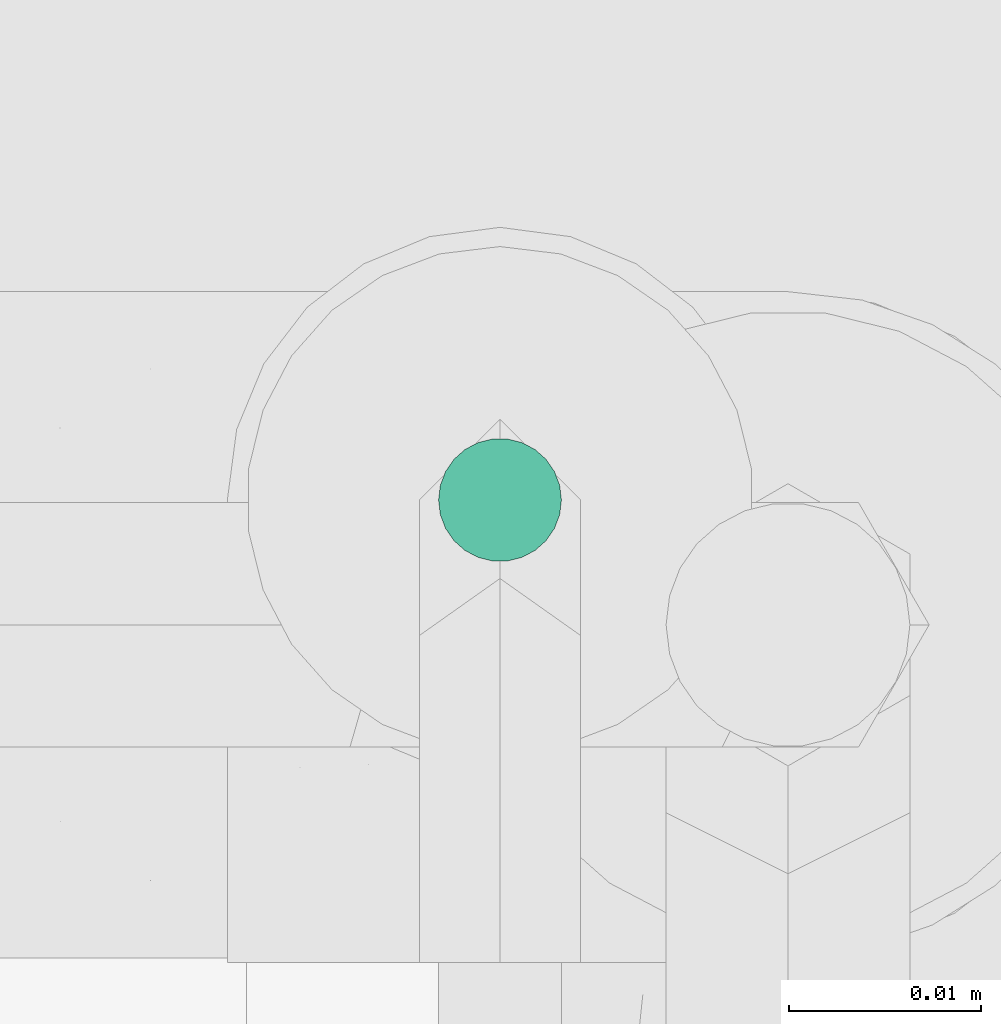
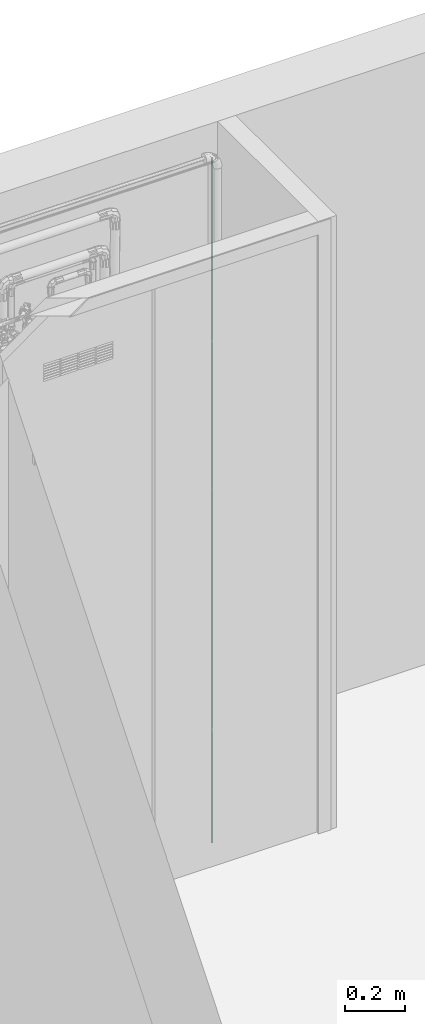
# One storey, part 17 of 32: 1 flow segment.
"""IFC2X3 building model written with IfcOpenShell, lengths in metres."""

from ifc_helpers import new_model, entity, si_unit, converted_unit, derived_unit, direction, frame, origin, origin_2d_with_axis, place, context, subcontext, project, spatial, circle, extrude, type_object, element, save


model = new_model("IFC2X3")

# Units and contexts
model_context = context("Model", 3, precision=1e-05, world=origin(), true_north=direction((6.123031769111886e-17, 1.0)))
body_context = subcontext(model_context, "Body", "Model", "MODEL_VIEW")
ifc_project = project(units=[si_unit("LENGTHUNIT", "METRE"), si_unit("AREAUNIT", "SQUARE_METRE"), si_unit("VOLUMEUNIT", "CUBIC_METRE"), converted_unit("PLANEANGLEUNIT", "DEGREE", entity("IfcPlaneAngleMeasure", 0.017453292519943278), si_unit("PLANEANGLEUNIT", "RADIAN"), dimensions=[0, 0, 0, 0, 0, 0, 0]), si_unit("MASSUNIT", "GRAM", prefix="KILO"), derived_unit("MASSDENSITYUNIT", [(si_unit("MASSUNIT", "GRAM", prefix="KILO"), 1), (si_unit("LENGTHUNIT", "METRE"), -3)]), derived_unit("IONCONCENTRATIONUNIT", [(si_unit("MASSUNIT", "GRAM", prefix="KILO"), 1), (si_unit("LENGTHUNIT", "METRE"), -3)]), derived_unit("MOMENTOFINERTIAUNIT", [(si_unit("LENGTHUNIT", "METRE"), 4)]), si_unit("TIMEUNIT", "SECOND"), si_unit("FREQUENCYUNIT", "HERTZ"), si_unit("THERMODYNAMICTEMPERATUREUNIT", "DEGREE_CELSIUS"), derived_unit("THERMALTRANSMITTANCEUNIT", [(si_unit("MASSUNIT", "GRAM", prefix="KILO"), 1), (si_unit("THERMODYNAMICTEMPERATUREUNIT", "KELVIN"), -1), (si_unit("TIMEUNIT", "SECOND"), -3)]), derived_unit("THERMALCONDUCTANCEUNIT", [(si_unit("MASSUNIT", "GRAM", prefix="KILO"), 1), (si_unit("THERMODYNAMICTEMPERATUREUNIT", "KELVIN"), -1), (si_unit("TIMEUNIT", "SECOND"), -3), (si_unit("LENGTHUNIT", "METRE"), 1)]), derived_unit("VOLUMETRICFLOWRATEUNIT", [(si_unit("LENGTHUNIT", "METRE", prefix="DECI"), 3), (si_unit("TIMEUNIT", "SECOND"), -1)]), derived_unit("MASSFLOWRATEUNIT", [(si_unit("MASSUNIT", "GRAM", prefix="KILO"), 1), (si_unit("TIMEUNIT", "SECOND"), -1)]), derived_unit("ROTATIONALFREQUENCYUNIT", [(si_unit("TIMEUNIT", "SECOND"), -1)]), si_unit("ELECTRICCURRENTUNIT", "AMPERE"), si_unit("ELECTRICVOLTAGEUNIT", "VOLT"), si_unit("POWERUNIT", "WATT"), si_unit("FORCEUNIT", "NEWTON", prefix="KILO"), si_unit("ILLUMINANCEUNIT", "LUX"), si_unit("LUMINOUSFLUXUNIT", "LUMEN"), si_unit("LUMINOUSINTENSITYUNIT", "CANDELA"), si_unit("ENERGYUNIT", "JOULE"), derived_unit("USERDEFINED", [(si_unit("MASSUNIT", "GRAM", prefix="KILO"), -1), (si_unit("LENGTHUNIT", "METRE"), -2), (si_unit("TIMEUNIT", "SECOND"), 3), (si_unit("LUMINOUSFLUXUNIT", "LUMEN"), 1)]), derived_unit("USERDEFINED", [(si_unit("MASSUNIT", "GRAM", prefix="KILO"), 1), (si_unit("TIMEUNIT", "SECOND"), -3), (si_unit("LENGTHUNIT", "METRE"), 3), (si_unit("ELECTRICCURRENTUNIT", "AMPERE"), -2)]), derived_unit("SOUNDPOWERUNIT", [(si_unit("MASSUNIT", "GRAM", prefix="KILO"), 1), (si_unit("TIMEUNIT", "SECOND"), -3), (si_unit("LENGTHUNIT", "METRE"), 2)]), derived_unit("SOUNDPRESSUREUNIT", [(si_unit("MASSUNIT", "GRAM", prefix="KILO"), 1), (si_unit("LENGTHUNIT", "METRE"), -1), (si_unit("TIMEUNIT", "SECOND"), -2)]), derived_unit("LINEARVELOCITYUNIT", [(si_unit("LENGTHUNIT", "METRE"), 1), (si_unit("TIMEUNIT", "SECOND"), -1)]), si_unit("PRESSUREUNIT", "PASCAL"), derived_unit("USERDEFINED", [(si_unit("MASSUNIT", "GRAM", prefix="KILO"), 1), (si_unit("LENGTHUNIT", "METRE"), -2), (si_unit("TIMEUNIT", "SECOND"), -2)]), derived_unit("LINEARFORCEUNIT", [(si_unit("MASSUNIT", "GRAM", prefix="KILO"), 1), (si_unit("TIMEUNIT", "SECOND"), -2)]), derived_unit("PLANARFORCEUNIT", [(si_unit("MASSUNIT", "GRAM", prefix="KILO"), 1), (si_unit("LENGTHUNIT", "METRE"), -1), (si_unit("TIMEUNIT", "SECOND"), -2)]), derived_unit("SPECIFICHEATCAPACITYUNIT", [(si_unit("THERMODYNAMICTEMPERATUREUNIT", "KELVIN"), -1), (si_unit("LENGTHUNIT", "METRE"), 2), (si_unit("TIMEUNIT", "SECOND"), -2)]), derived_unit("HEATFLUXDENSITYUNIT", [(si_unit("MASSUNIT", "GRAM", prefix="KILO"), 1), (si_unit("TIMEUNIT", "SECOND"), -3)]), derived_unit("HEATINGVALUEUNIT", [(si_unit("LENGTHUNIT", "METRE"), 2), (si_unit("TIMEUNIT", "SECOND"), -2)]), derived_unit("VAPORPERMEABILITYUNIT", [(si_unit("LENGTHUNIT", "METRE"), -1), (si_unit("TIMEUNIT", "SECOND"), 1)]), derived_unit("DYNAMICVISCOSITYUNIT", [(si_unit("MASSUNIT", "GRAM", prefix="KILO"), 1), (si_unit("TIMEUNIT", "SECOND"), -1), (si_unit("LENGTHUNIT", "METRE"), -1)]), derived_unit("THERMALEXPANSIONCOEFFICIENTUNIT", [(si_unit("THERMODYNAMICTEMPERATUREUNIT", "KELVIN"), -1)]), derived_unit("MODULUSOFELASTICITYUNIT", [(si_unit("MASSUNIT", "GRAM", prefix="KILO"), 1), (si_unit("LENGTHUNIT", "METRE"), -1), (si_unit("TIMEUNIT", "SECOND"), -2)]), derived_unit("ISOTHERMALMOISTURECAPACITYUNIT", [(si_unit("MASSUNIT", "GRAM", prefix="KILO"), -1), (si_unit("LENGTHUNIT", "METRE"), 3)]), derived_unit("MOISTUREDIFFUSIVITYUNIT", [(si_unit("TIMEUNIT", "SECOND"), -1), (si_unit("LENGTHUNIT", "METRE"), 2)]), derived_unit("MASSPERLENGTHUNIT", [(si_unit("MASSUNIT", "GRAM", prefix="KILO"), 1), (si_unit("LENGTHUNIT", "METRE"), -1)]), derived_unit("THERMALRESISTANCEUNIT", [(si_unit("MASSUNIT", "GRAM", prefix="KILO"), -1), (si_unit("TIMEUNIT", "SECOND"), 3), (si_unit("THERMODYNAMICTEMPERATUREUNIT", "KELVIN"), 1)]), derived_unit("ACCELERATIONUNIT", [(si_unit("LENGTHUNIT", "METRE"), 1), (si_unit("TIMEUNIT", "SECOND"), -2)]), derived_unit("ANGULARVELOCITYUNIT", [(si_unit("TIMEUNIT", "SECOND"), -1), (si_unit("PLANEANGLEUNIT", "RADIAN"), 1)]), derived_unit("LINEARSTIFFNESSUNIT", [(si_unit("MASSUNIT", "GRAM", prefix="KILO"), 1), (si_unit("TIMEUNIT", "SECOND"), -2)]), derived_unit("WARPINGCONSTANTUNIT", [(si_unit("LENGTHUNIT", "METRE"), 6)]), derived_unit("LINEARMOMENTUNIT", [(si_unit("MASSUNIT", "GRAM", prefix="KILO"), 1), (si_unit("LENGTHUNIT", "METRE"), 1), (si_unit("TIMEUNIT", "SECOND"), -2)]), derived_unit("TORQUEUNIT", [(si_unit("MASSUNIT", "GRAM", prefix="KILO"), 1), (si_unit("LENGTHUNIT", "METRE"), 2), (si_unit("TIMEUNIT", "SECOND"), -2)])], contexts=[model_context])

# Site, building, storey
site_placement = place(None, origin())
site = spatial("IfcSite", under=ifc_project, at=site_placement, Name="Default", CompositionType="ELEMENT")
building_placement = place(site_placement, origin())
building = spatial("IfcBuilding", under=site, at=building_placement, CompositionType="ELEMENT")
storey_placement = place(building_placement, origin())
storey = spatial("IfcBuildingStorey", under=building, at=storey_placement, Name="Niveau 0", CompositionType="ELEMENT", Elevation=-1.949160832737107e-14)

# Flow segment
pipe_segment_type = type_object("IfcPipeSegmentType", Name="Canalisation:Cuivre Frigo", PredefinedType="NOTDEFINED")
flow_segment_placement = place(storey_placement, origin())
element("IfcFlowSegment", 1, at=flow_segment_placement, inside=storey, type_object=pipe_segment_type, Name="Canalisation:Cuivre Frigo", ObjectType="Canalisation:Cuivre Frigo", context=body_context, shape_type="SweptSolid", body=[
    extrude(circle(Radius=0.0032, at=origin_2d_with_axis()), frame((-13.575301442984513, 2.792026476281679, -0.3758999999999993)), (0.0, 0.0, 1.0), 2.7967999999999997),
])

save(model, "model.ifc")
